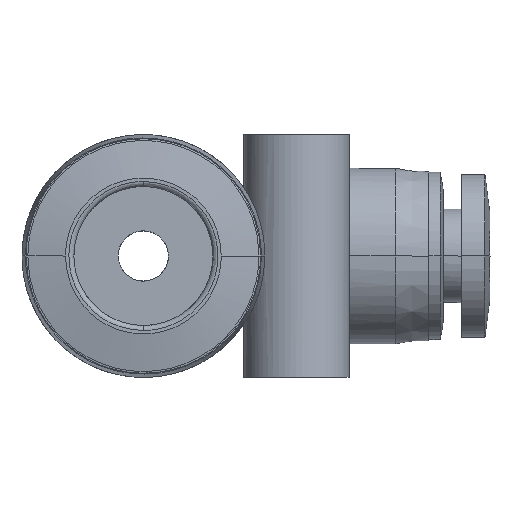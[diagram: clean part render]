
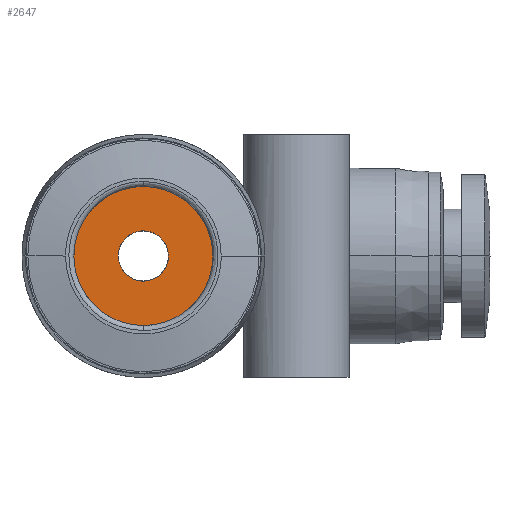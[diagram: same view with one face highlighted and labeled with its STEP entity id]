
A CAD part, front view. The second image highlights one B-rep face of the part: STEP entity #2647.
In plain terms, the highlighted planar face has unit normal (0, -1, 0).
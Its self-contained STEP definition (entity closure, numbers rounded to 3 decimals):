
#3 = PLANE ( 'NONE',  #4997 ) ;
#39 = ORIENTED_EDGE ( 'NONE', *, *, #1840, .F. ) ;
#257 = CARTESIAN_POINT ( 'NONE',  ( 3.319, -14.45, 2.55 ) ) ;
#308 = VERTEX_POINT ( 'NONE', #2439 ) ;
#362 = CARTESIAN_POINT ( 'NONE',  ( -0.39, -14.45, 1.462 ) ) ;
#663 = B_SPLINE_CURVE_WITH_KNOTS ( 'NONE', 3,
 ( #8484, #5207, #8397, #2569, #2392, #3802, #8569, #7918, #7831, #7043, #5782, #1864, #5329, #4108, #4678, #5422, #2611, #6735 ),
 .UNSPECIFIED., .F., .F.,
 ( 4, 2, 2, 2, 2, 2, 2, 2, 4 ),
 ( 0.5, 0.563, 0.625, 0.688, 0.75, 0.813, 0.875, 0.938, 1. ),
 .UNSPECIFIED. ) ;
#792 = CARTESIAN_POINT ( 'NONE',  ( 4.042, -14.45, 1.086 ) ) ;
#794 = CARTESIAN_POINT ( 'NONE',  ( -1.086, -14.45, -4.042 ) ) ;
#830 = CARTESIAN_POINT ( 'NONE',  ( 0.543, -14.45, 4.15 ) ) ;
#833 = FACE_BOUND ( 'NONE', #8348, .T. ) ;
#870 = CARTESIAN_POINT ( 'NONE',  ( -3.319, -14.45, 2.55 ) ) ;
#887 = CARTESIAN_POINT ( 'NONE',  ( 1.5, -14.45, 0. ) ) ;
#955 = CARTESIAN_POINT ( 'NONE',  ( 2.55, -14.45, 3.319 ) ) ;
#1249 = EDGE_CURVE ( 'NONE', #5690, #5312, #1695, .T. ) ;
#1356 = DIRECTION ( 'NONE',  ( 1., 0., 0. ) ) ;
#1402 = CARTESIAN_POINT ( 'NONE',  ( -4.042, -14.45, -1.086 ) ) ;
#1444 = CARTESIAN_POINT ( 'NONE',  ( -0.543, -14.45, 4.15 ) ) ;
#1446 = CARTESIAN_POINT ( 'NONE',  ( -2.55, -14.45, -3.319 ) ) ;
#1488 = CARTESIAN_POINT ( 'NONE',  ( 3.319, -14.45, -2.55 ) ) ;
#1527 = CARTESIAN_POINT ( 'NONE',  ( -3.626, -14.45, 2.09 ) ) ;
#1567 = CARTESIAN_POINT ( 'NONE',  ( -4.15, -14.45, 0. ) ) ;
#1613 = CARTESIAN_POINT ( 'NONE',  ( 3.626, -14.45, 2.09 ) ) ;
#1695 = B_SPLINE_CURVE_WITH_KNOTS ( 'NONE', 3,
 ( #4205, #2186, #7402, #3501, #1488, #8192, #4082, #8234, #7532, #2099, #794, #6053, #1446, #6143, #6184, #1402, #2224, #4033 ),
 .UNSPECIFIED., .F., .F.,
 ( 4, 2, 2, 2, 2, 2, 2, 2, 4 ),
 ( 0.5, 0.563, 0.625, 0.687, 0.75, 0.812, 0.875, 0.938, 1. ),
 .UNSPECIFIED. ) ;
#1840 = EDGE_CURVE ( 'NONE', #5312, #5690, #2649, .T. ) ;
#1864 = CARTESIAN_POINT ( 'NONE',  ( -0.758, -14.45, -1.309 ) ) ;
#2054 = CARTESIAN_POINT ( 'NONE',  ( -2.825, -14.45, 0. ) ) ;
#2099 = CARTESIAN_POINT ( 'NONE',  ( -0.543, -14.45, -4.15 ) ) ;
#2186 = CARTESIAN_POINT ( 'NONE',  ( 4.15, -14.45, -0.543 ) ) ;
#2197 = CARTESIAN_POINT ( 'NONE',  ( 1.462, -14.45, 0.39 ) ) ;
#2224 = CARTESIAN_POINT ( 'NONE',  ( -4.15, -14.45, -0.543 ) ) ;
#2284 = CARTESIAN_POINT ( 'NONE',  ( -1.202, -14.45, 0.92 ) ) ;
#2392 = CARTESIAN_POINT ( 'NONE',  ( 1.202, -14.45, -0.92 ) ) ;
#2439 = CARTESIAN_POINT ( 'NONE',  ( -1.5, -14.45, 0. ) ) ;
#2518 = CARTESIAN_POINT ( 'NONE',  ( 1.5, -14.45, 0. ) ) ;
#2569 = CARTESIAN_POINT ( 'NONE',  ( 1.309, -14.45, -0.758 ) ) ;
#2611 = CARTESIAN_POINT ( 'NONE',  ( -1.5, -14.45, -0.199 ) ) ;
#2647 = ADVANCED_FACE ( 'NONE', ( #4083, #833 ), #3, .F. ) ;
#2649 = B_SPLINE_CURVE_WITH_KNOTS ( 'NONE', 3,
 ( #1567, #3586, #4249, #1527, #870, #6834, #6795, #3541, #1444, #830, #7530, #7613, #955, #257, #1613, #792, #5481, #2938 ),
 .UNSPECIFIED., .F., .F.,
 ( 4, 2, 2, 2, 2, 2, 2, 2, 4 ),
 ( 0., 0.063, 0.125, 0.188, 0.25, 0.313, 0.375, 0.438, 0.5 ),
 .UNSPECIFIED. ) ;
#2742 = ORIENTED_EDGE ( 'NONE', *, *, #1249, .F. ) ;
#2938 = CARTESIAN_POINT ( 'NONE',  ( 4.15, -14.45, 0. ) ) ;
#3036 = CARTESIAN_POINT ( 'NONE',  ( 0.39, -14.45, 1.462 ) ) ;
#3457 = B_SPLINE_CURVE_WITH_KNOTS ( 'NONE', 3,
 ( #8331, #8373, #8285, #7670, #2284, #3638, #4962, #362, #5005, #7628, #3036, #5711, #5048, #3513, #6196, #2197, #6887, #887 ),
 .UNSPECIFIED., .F., .F.,
 ( 4, 2, 2, 2, 2, 2, 2, 2, 4 ),
 ( 0., 0.063, 0.125, 0.188, 0.25, 0.313, 0.375, 0.438, 0.5 ),
 .UNSPECIFIED. ) ;
#3501 = CARTESIAN_POINT ( 'NONE',  ( 3.626, -14.45, -2.09 ) ) ;
#3513 = CARTESIAN_POINT ( 'NONE',  ( 1.202, -14.45, 0.92 ) ) ;
#3541 = CARTESIAN_POINT ( 'NONE',  ( -1.086, -14.45, 4.042 ) ) ;
#3586 = CARTESIAN_POINT ( 'NONE',  ( -4.15, -14.45, 0.543 ) ) ;
#3638 = CARTESIAN_POINT ( 'NONE',  ( -0.92, -14.45, 1.202 ) ) ;
#3802 = CARTESIAN_POINT ( 'NONE',  ( 0.92, -14.45, -1.202 ) ) ;
#4033 = CARTESIAN_POINT ( 'NONE',  ( -4.15, -14.45, 0. ) ) ;
#4082 = CARTESIAN_POINT ( 'NONE',  ( 2.09, -14.45, -3.626 ) ) ;
#4083 = FACE_OUTER_BOUND ( 'NONE', #5588, .T. ) ;
#4100 = CARTESIAN_POINT ( 'NONE',  ( -4.15, -14.45, 0. ) ) ;
#4108 = CARTESIAN_POINT ( 'NONE',  ( -1.202, -14.45, -0.92 ) ) ;
#4205 = CARTESIAN_POINT ( 'NONE',  ( 4.15, -14.45, 0. ) ) ;
#4249 = CARTESIAN_POINT ( 'NONE',  ( -4.042, -14.45, 1.086 ) ) ;
#4591 = EDGE_CURVE ( 'NONE', #308, #6128, #3457, .T. ) ;
#4678 = CARTESIAN_POINT ( 'NONE',  ( -1.31, -14.45, -0.758 ) ) ;
#4729 = ORIENTED_EDGE ( 'NONE', *, *, #6649, .T. ) ;
#4962 = CARTESIAN_POINT ( 'NONE',  ( -0.758, -14.45, 1.31 ) ) ;
#4997 = AXIS2_PLACEMENT_3D ( 'NONE', #2054, #6753, #1356 ) ;
#5005 = CARTESIAN_POINT ( 'NONE',  ( -0.199, -14.45, 1.5 ) ) ;
#5048 = CARTESIAN_POINT ( 'NONE',  ( 0.92, -14.45, 1.202 ) ) ;
#5207 = CARTESIAN_POINT ( 'NONE',  ( 1.5, -14.45, -0.199 ) ) ;
#5312 = VERTEX_POINT ( 'NONE', #4100 ) ;
#5329 = CARTESIAN_POINT ( 'NONE',  ( -0.92, -14.45, -1.202 ) ) ;
#5422 = CARTESIAN_POINT ( 'NONE',  ( -1.462, -14.45, -0.39 ) ) ;
#5481 = CARTESIAN_POINT ( 'NONE',  ( 4.15, -14.45, 0.543 ) ) ;
#5588 = EDGE_LOOP ( 'NONE', ( #39, #2742 ) ) ;
#5690 = VERTEX_POINT ( 'NONE', #8026 ) ;
#5711 = CARTESIAN_POINT ( 'NONE',  ( 0.758, -14.45, 1.309 ) ) ;
#5782 = CARTESIAN_POINT ( 'NONE',  ( -0.39, -14.45, -1.462 ) ) ;
#6053 = CARTESIAN_POINT ( 'NONE',  ( -2.09, -14.45, -3.626 ) ) ;
#6128 = VERTEX_POINT ( 'NONE', #2518 ) ;
#6143 = CARTESIAN_POINT ( 'NONE',  ( -3.319, -14.45, -2.55 ) ) ;
#6184 = CARTESIAN_POINT ( 'NONE',  ( -3.626, -14.45, -2.09 ) ) ;
#6196 = CARTESIAN_POINT ( 'NONE',  ( 1.31, -14.45, 0.758 ) ) ;
#6649 = EDGE_CURVE ( 'NONE', #6128, #308, #663, .T. ) ;
#6735 = CARTESIAN_POINT ( 'NONE',  ( -1.5, -14.45, 0. ) ) ;
#6753 = DIRECTION ( 'NONE',  ( 0., 1., 0. ) ) ;
#6788 = ORIENTED_EDGE ( 'NONE', *, *, #4591, .T. ) ;
#6795 = CARTESIAN_POINT ( 'NONE',  ( -2.09, -14.45, 3.626 ) ) ;
#6834 = CARTESIAN_POINT ( 'NONE',  ( -2.55, -14.45, 3.319 ) ) ;
#6887 = CARTESIAN_POINT ( 'NONE',  ( 1.5, -14.45, 0.199 ) ) ;
#7043 = CARTESIAN_POINT ( 'NONE',  ( -0.199, -14.45, -1.5 ) ) ;
#7402 = CARTESIAN_POINT ( 'NONE',  ( 4.042, -14.45, -1.086 ) ) ;
#7530 = CARTESIAN_POINT ( 'NONE',  ( 1.086, -14.45, 4.042 ) ) ;
#7532 = CARTESIAN_POINT ( 'NONE',  ( 0.543, -14.45, -4.15 ) ) ;
#7613 = CARTESIAN_POINT ( 'NONE',  ( 2.09, -14.45, 3.626 ) ) ;
#7628 = CARTESIAN_POINT ( 'NONE',  ( 0.199, -14.45, 1.5 ) ) ;
#7670 = CARTESIAN_POINT ( 'NONE',  ( -1.309, -14.45, 0.758 ) ) ;
#7831 = CARTESIAN_POINT ( 'NONE',  ( 0.199, -14.45, -1.5 ) ) ;
#7918 = CARTESIAN_POINT ( 'NONE',  ( 0.39, -14.45, -1.462 ) ) ;
#8026 = CARTESIAN_POINT ( 'NONE',  ( 4.15, -14.45, 0. ) ) ;
#8192 = CARTESIAN_POINT ( 'NONE',  ( 2.55, -14.45, -3.319 ) ) ;
#8234 = CARTESIAN_POINT ( 'NONE',  ( 1.086, -14.45, -4.042 ) ) ;
#8285 = CARTESIAN_POINT ( 'NONE',  ( -1.462, -14.45, 0.39 ) ) ;
#8331 = CARTESIAN_POINT ( 'NONE',  ( -1.5, -14.45, 0. ) ) ;
#8348 = EDGE_LOOP ( 'NONE', ( #6788, #4729 ) ) ;
#8373 = CARTESIAN_POINT ( 'NONE',  ( -1.5, -14.45, 0.199 ) ) ;
#8397 = CARTESIAN_POINT ( 'NONE',  ( 1.462, -14.45, -0.39 ) ) ;
#8484 = CARTESIAN_POINT ( 'NONE',  ( 1.5, -14.45, 0. ) ) ;
#8569 = CARTESIAN_POINT ( 'NONE',  ( 0.758, -14.45, -1.31 ) ) ;
